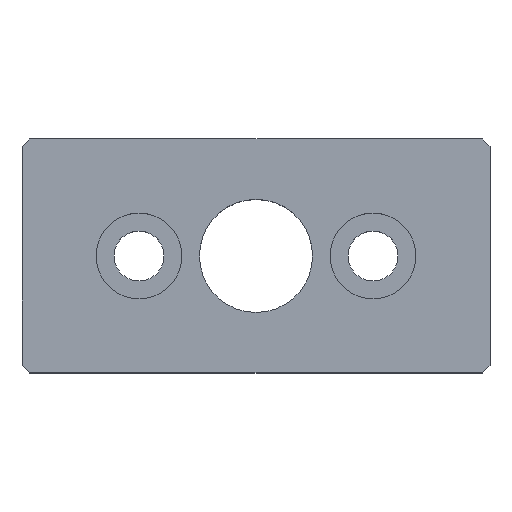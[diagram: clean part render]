
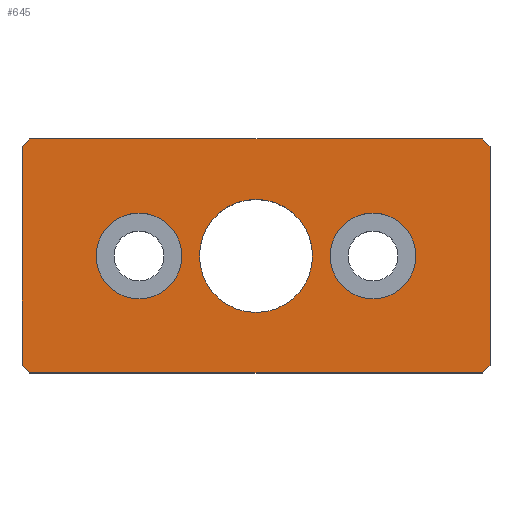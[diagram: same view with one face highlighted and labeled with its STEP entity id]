
A CAD part, top view. The second image highlights one B-rep face of the part: STEP entity #645.
In plain terms, the highlighted planar face has unit normal (0, 0, 1).
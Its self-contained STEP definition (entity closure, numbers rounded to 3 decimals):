
#8 = AXIS2_PLACEMENT_3D ( 'NONE', #220, #522, #517 ) ;
#44 = VERTEX_POINT ( 'NONE', #648 ) ;
#47 = AXIS2_PLACEMENT_3D ( 'NONE', #345, #285, #693 ) ;
#49 = EDGE_CURVE ( 'NONE', #391, #101, #598, .T. ) ;
#57 = CARTESIAN_POINT ( 'NONE',  ( -17.571, 8.979, 12. ) ) ;
#60 = LINE ( 'NONE', #576, #641 ) ;
#72 = ORIENTED_EDGE ( 'NONE', *, *, #231, .T. ) ;
#74 = DIRECTION ( 'NONE',  ( -0.707, -0.707, 0. ) ) ;
#82 = ORIENTED_EDGE ( 'NONE', *, *, #49, .T. ) ;
#84 = LINE ( 'NONE', #503, #300 ) ;
#86 = VERTEX_POINT ( 'NONE', #248 ) ;
#92 = ORIENTED_EDGE ( 'NONE', *, *, #363, .T. ) ;
#95 = VERTEX_POINT ( 'NONE', #267 ) ;
#101 = VERTEX_POINT ( 'NONE', #681 ) ;
#103 = DIRECTION ( 'NONE',  ( 0., 1., 0. ) ) ;
#104 = VERTEX_POINT ( 'NONE', #271 ) ;
#106 = EDGE_CURVE ( 'NONE', #671, #104, #433, .T. ) ;
#109 = AXIS2_PLACEMENT_3D ( 'NONE', #637, #222, #121 ) ;
#112 = AXIS2_PLACEMENT_3D ( 'NONE', #512, #148, #737 ) ;
#115 = FACE_BOUND ( 'NONE', #140, .T. ) ;
#116 = DIRECTION ( 'NONE',  ( -1., 0., 0. ) ) ;
#120 = CARTESIAN_POINT ( 'NONE',  ( 12.429, -6.021, 12. ) ) ;
#121 = DIRECTION ( 'NONE',  ( 1., 0., 0. ) ) ;
#123 = EDGE_CURVE ( 'NONE', #156, #142, #133, .T. ) ;
#133 = CIRCLE ( 'NONE', #112, 5.5 ) ;
#137 = CARTESIAN_POINT ( 'NONE',  ( 21.929, -6.021, 12. ) ) ;
#138 = DIRECTION ( 'NONE',  ( 0., 0., 1. ) ) ;
#140 = EDGE_LOOP ( 'NONE', ( #411, #705 ) ) ;
#142 = VERTEX_POINT ( 'NONE', #376 ) ;
#143 = VECTOR ( 'NONE', #451, 1000. ) ;
#148 = DIRECTION ( 'NONE',  ( 0., 0., 1. ) ) ;
#150 = ORIENTED_EDGE ( 'NONE', *, *, #152, .T. ) ;
#152 = EDGE_CURVE ( 'NONE', #478, #44, #84, .T. ) ;
#156 = VERTEX_POINT ( 'NONE', #329 ) ;
#161 = EDGE_CURVE ( 'NONE', #142, #156, #170, .T. ) ;
#164 = ORIENTED_EDGE ( 'NONE', *, *, #475, .T. ) ;
#167 = PLANE ( 'NONE',  #109 ) ;
#168 = CARTESIAN_POINT ( 'NONE',  ( 12.429, -6.021, 12. ) ) ;
#170 = CIRCLE ( 'NONE', #516, 5.5 ) ;
#193 = DIRECTION ( 'NONE',  ( 0., 0., -1. ) ) ;
#214 = EDGE_CURVE ( 'NONE', #101, #391, #216, .T. ) ;
#216 = CIRCLE ( 'NONE', #582, 7.25 ) ;
#220 = CARTESIAN_POINT ( 'NONE',  ( 27.429, -6.021, 12. ) ) ;
#222 = DIRECTION ( 'NONE',  ( 0., 0., 1. ) ) ;
#231 = EDGE_CURVE ( 'NONE', #86, #478, #60, .T. ) ;
#238 = EDGE_CURVE ( 'NONE', #541, #493, #642, .T. ) ;
#248 = CARTESIAN_POINT ( 'NONE',  ( 42.429, 7.979, 12. ) ) ;
#255 = DIRECTION ( 'NONE',  ( 1., 0., 0. ) ) ;
#258 = EDGE_CURVE ( 'NONE', #104, #95, #742, .T. ) ;
#262 = VERTEX_POINT ( 'NONE', #268 ) ;
#267 = CARTESIAN_POINT ( 'NONE',  ( 42.429, -20.021, 12. ) ) ;
#268 = CARTESIAN_POINT ( 'NONE',  ( -17.571, 7.979, 12. ) ) ;
#271 = CARTESIAN_POINT ( 'NONE',  ( 41.429, -21.021, 12. ) ) ;
#276 = CARTESIAN_POINT ( 'NONE',  ( 31.225, -31.225, 12. ) ) ;
#278 = ORIENTED_EDGE ( 'NONE', *, *, #123, .F. ) ;
#280 = VECTOR ( 'NONE', #297, 1000. ) ;
#285 = DIRECTION ( 'NONE',  ( 0., 0., 1. ) ) ;
#290 = FACE_BOUND ( 'NONE', #307, .T. ) ;
#297 = DIRECTION ( 'NONE',  ( 0.707, -0.707, 0. ) ) ;
#300 = VECTOR ( 'NONE', #498, 1000. ) ;
#306 = CARTESIAN_POINT ( 'NONE',  ( 41.429, 8.979, 12. ) ) ;
#307 = EDGE_LOOP ( 'NONE', ( #278, #727 ) ) ;
#329 = CARTESIAN_POINT ( 'NONE',  ( 2.929, -6.021, 12. ) ) ;
#330 = CARTESIAN_POINT ( 'NONE',  ( 19.679, -6.021, 12. ) ) ;
#335 = DIRECTION ( 'NONE',  ( 0., 0., -1. ) ) ;
#337 = VECTOR ( 'NONE', #74, 1000. ) ;
#345 = CARTESIAN_POINT ( 'NONE',  ( 27.429, -6.021, 12. ) ) ;
#349 = DIRECTION ( 'NONE',  ( 0., -1., 0. ) ) ;
#352 = DIRECTION ( 'NONE',  ( -1., 0., 0. ) ) ;
#355 = ORIENTED_EDGE ( 'NONE', *, *, #214, .T. ) ;
#363 = EDGE_CURVE ( 'NONE', #95, #86, #494, .T. ) ;
#369 = EDGE_LOOP ( 'NONE', ( #378, #415, #92, #72, #150, #164, #386, #444 ) ) ;
#375 = AXIS2_PLACEMENT_3D ( 'NONE', #120, #193, #352 ) ;
#376 = CARTESIAN_POINT ( 'NONE',  ( -8.071, -6.021, 12. ) ) ;
#378 = ORIENTED_EDGE ( 'NONE', *, *, #106, .T. ) ;
#386 = ORIENTED_EDGE ( 'NONE', *, *, #643, .T. ) ;
#391 = VERTEX_POINT ( 'NONE', #330 ) ;
#403 = LINE ( 'NONE', #57, #579 ) ;
#411 = ORIENTED_EDGE ( 'NONE', *, *, #238, .F. ) ;
#415 = ORIENTED_EDGE ( 'NONE', *, *, #258, .T. ) ;
#420 = LINE ( 'NONE', #660, #337 ) ;
#433 = LINE ( 'NONE', #662, #691 ) ;
#438 = DIRECTION ( 'NONE',  ( 1., 0., 0. ) ) ;
#443 = EDGE_LOOP ( 'NONE', ( #355, #82 ) ) ;
#444 = ORIENTED_EDGE ( 'NONE', *, *, #455, .T. ) ;
#451 = DIRECTION ( 'NONE',  ( 0.707, 0.707, 0. ) ) ;
#455 = EDGE_CURVE ( 'NONE', #657, #671, #591, .T. ) ;
#460 = DIRECTION ( 'NONE',  ( -0.707, 0.707, 0. ) ) ;
#475 = EDGE_CURVE ( 'NONE', #44, #262, #420, .T. ) ;
#478 = VERTEX_POINT ( 'NONE', #306 ) ;
#487 = CARTESIAN_POINT ( 'NONE',  ( -18.796, -18.796, 12. ) ) ;
#493 = VERTEX_POINT ( 'NONE', #137 ) ;
#494 = LINE ( 'NONE', #629, #514 ) ;
#498 = DIRECTION ( 'NONE',  ( -1., 0., 0. ) ) ;
#503 = CARTESIAN_POINT ( 'NONE',  ( 42.429, 8.979, 12. ) ) ;
#512 = CARTESIAN_POINT ( 'NONE',  ( -2.571, -6.021, 12. ) ) ;
#514 = VECTOR ( 'NONE', #103, 1000. ) ;
#516 = AXIS2_PLACEMENT_3D ( 'NONE', #550, #138, #255 ) ;
#517 = DIRECTION ( 'NONE',  ( 1., 0., 0. ) ) ;
#522 = DIRECTION ( 'NONE',  ( 0., 0., 1. ) ) ;
#525 = FACE_OUTER_BOUND ( 'NONE', #369, .T. ) ;
#541 = VERTEX_POINT ( 'NONE', #649 ) ;
#550 = CARTESIAN_POINT ( 'NONE',  ( -2.571, -6.021, 12. ) ) ;
#576 = CARTESIAN_POINT ( 'NONE',  ( 25.204, 25.204, 12. ) ) ;
#579 = VECTOR ( 'NONE', #349, 1000. ) ;
#582 = AXIS2_PLACEMENT_3D ( 'NONE', #168, #335, #116 ) ;
#591 = LINE ( 'NONE', #487, #280 ) ;
#598 = CIRCLE ( 'NONE', #375, 7.25 ) ;
#629 = CARTESIAN_POINT ( 'NONE',  ( 42.429, -21.021, 12. ) ) ;
#637 = CARTESIAN_POINT ( 'NONE',  ( 0., 0., 12. ) ) ;
#640 = CARTESIAN_POINT ( 'NONE',  ( -17.571, -20.021, 12. ) ) ;
#641 = VECTOR ( 'NONE', #460, 1000. ) ;
#642 = CIRCLE ( 'NONE', #8, 5.5 ) ;
#643 = EDGE_CURVE ( 'NONE', #262, #657, #403, .T. ) ;
#645 = ADVANCED_FACE ( 'NONE', ( #290, #115, #647, #525 ), #167, .T. ) ;
#647 = FACE_BOUND ( 'NONE', #443, .T. ) ;
#648 = CARTESIAN_POINT ( 'NONE',  ( -16.571, 8.979, 12. ) ) ;
#649 = CARTESIAN_POINT ( 'NONE',  ( 32.929, -6.021, 12. ) ) ;
#657 = VERTEX_POINT ( 'NONE', #640 ) ;
#660 = CARTESIAN_POINT ( 'NONE',  ( -12.775, 12.775, 12. ) ) ;
#662 = CARTESIAN_POINT ( 'NONE',  ( -17.571, -21.021, 12. ) ) ;
#671 = VERTEX_POINT ( 'NONE', #745 ) ;
#681 = CARTESIAN_POINT ( 'NONE',  ( 5.179, -6.021, 12. ) ) ;
#688 = CIRCLE ( 'NONE', #47, 5.5 ) ;
#691 = VECTOR ( 'NONE', #438, 1000. ) ;
#693 = DIRECTION ( 'NONE',  ( 1., 0., 0. ) ) ;
#705 = ORIENTED_EDGE ( 'NONE', *, *, #751, .F. ) ;
#727 = ORIENTED_EDGE ( 'NONE', *, *, #161, .F. ) ;
#737 = DIRECTION ( 'NONE',  ( 1., 0., 0. ) ) ;
#742 = LINE ( 'NONE', #276, #143 ) ;
#745 = CARTESIAN_POINT ( 'NONE',  ( -16.571, -21.021, 12. ) ) ;
#751 = EDGE_CURVE ( 'NONE', #493, #541, #688, .T. ) ;
